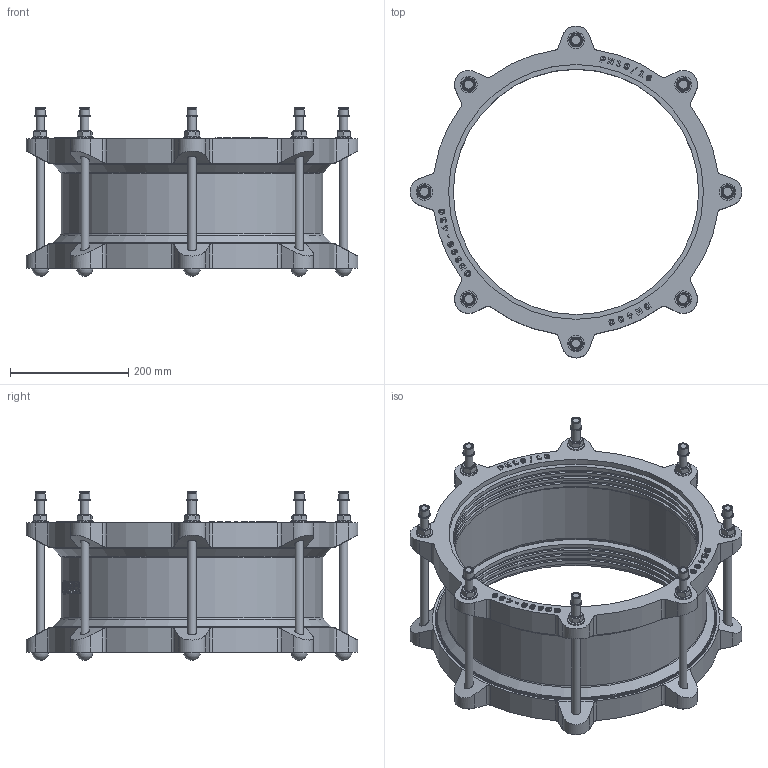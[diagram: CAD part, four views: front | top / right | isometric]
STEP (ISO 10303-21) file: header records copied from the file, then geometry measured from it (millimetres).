
FILE_DESCRIPTION(('STEP AP203'), '1');
FILE_NAME('Cîåäèíèòåëüíàÿ ìóôòà äëÿ æåñòêèõ òðóá', '', ('UNSPECIFIED'), ('UNSPECIFIED'), 'C3D Converter', 'C3D Toolkit', '');
FILE_SCHEMA(('CONFIG_CONTROL_DESIGN'));
Length unit declared in the file: millimetre
Assembly tree (37 placements, depth 2):
  (unnamed)
    (unnamed)
    (unnamed)  x8
    (unnamed)  x8
    (unnamed)  x8
    (unnamed)  x8
    (unnamed)
    (unnamed)
    (unnamed)  x2
Bounding box: 560 x 560 x 285.4 mm (x, y, z)
Volume: 6461452.4 mm3; surface area: 1518007.2 mm2
Topology: 41 solids, 41 shells, 1026 faces, 2537 edges, 1662 vertices
Faces by surface type: extrusion 384, plane 373, cylinder 173, cone 62, torus 26, sphere 8
Full cylindrical faces by diameter (mm): 14 x24, 15 x8, 16 x16, 16.8 x8, 19.6 x8, 23.29 x1, 28 x8, 414 x8, 422 x6, 430 x3, 436 x2, 442 x3, 469 x2, 472 x4
Entity records: 37473 total; most frequent: CARTESIAN_POINT 13746, ORIENTED_EDGE 4078, DIRECTION 2635, EDGE_CURVE 2039, VERTEX_POINT 1388, VECTOR 1295, B_SPLINE_CURVE_WITH_KNOTS 1260, EDGE_LOOP 971
